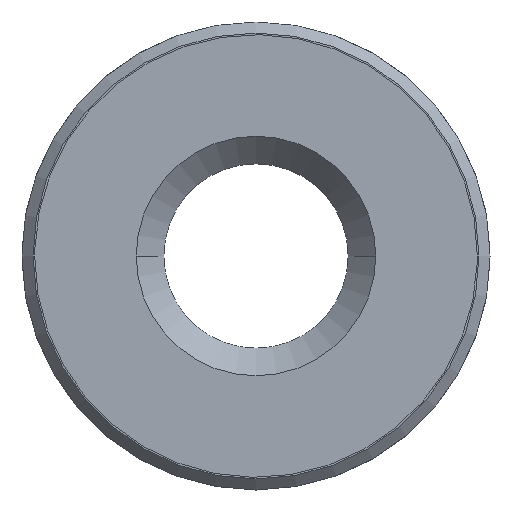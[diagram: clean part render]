
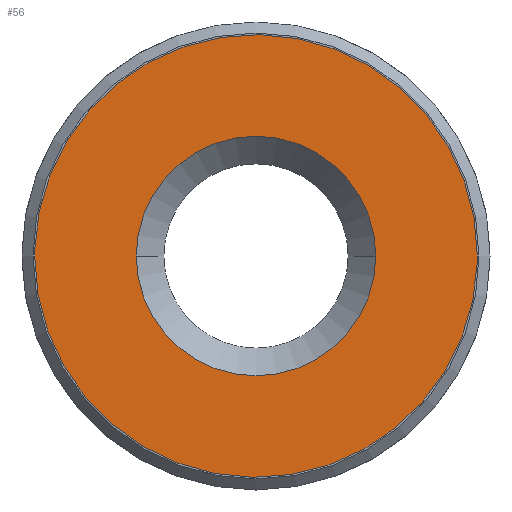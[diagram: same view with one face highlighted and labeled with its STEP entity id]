
A CAD part, front view. The second image highlights one B-rep face of the part: STEP entity #56.
In plain terms, the highlighted planar face has unit normal (0, -1, 0).
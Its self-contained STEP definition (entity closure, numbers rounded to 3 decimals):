
#51=FACE_BOUND('',#125,.F.);
#56=ADVANCED_FACE('',(#51,#90),#330,.T.);
#90=FACE_OUTER_BOUND('',#126,.F.);
#125=EDGE_LOOP('',(#168,#169));
#126=EDGE_LOOP('',(#170,#171,#172,#173));
#168=ORIENTED_EDGE('',*,*,#552,.T.);
#169=ORIENTED_EDGE('',*,*,#550,.T.);
#170=ORIENTED_EDGE('',*,*,#545,.F.);
#171=ORIENTED_EDGE('',*,*,#547,.F.);
#172=ORIENTED_EDGE('',*,*,#546,.F.);
#173=ORIENTED_EDGE('',*,*,#548,.F.);
#330=PLANE('',#793);
#545=EDGE_CURVE('',#719,#718,#629,.T.);
#546=EDGE_CURVE('',#717,#716,#630,.T.);
#547=EDGE_CURVE('',#716,#719,#631,.T.);
#548=EDGE_CURVE('',#718,#717,#632,.T.);
#550=EDGE_CURVE('',#713,#712,#634,.T.);
#552=EDGE_CURVE('',#712,#713,#636,.T.);
#629=CIRCLE('',#752,12.013);
#630=CIRCLE('',#753,12.013);
#631=CIRCLE('',#754,12.013);
#632=CIRCLE('',#755,12.013);
#634=CIRCLE('',#757,6.5);
#636=CIRCLE('',#759,6.5);
#712=VERTEX_POINT('',#1069);
#713=VERTEX_POINT('',#1070);
#716=VERTEX_POINT('',#1073);
#717=VERTEX_POINT('',#1074);
#718=VERTEX_POINT('',#1075);
#719=VERTEX_POINT('',#1076);
#752=AXIS2_PLACEMENT_3D('',#1080,#833,#834);
#753=AXIS2_PLACEMENT_3D('',#1081,#835,#836);
#754=AXIS2_PLACEMENT_3D('',#1082,#837,#838);
#755=AXIS2_PLACEMENT_3D('',#1083,#839,#840);
#757=AXIS2_PLACEMENT_3D('',#1085,#843,#844);
#759=AXIS2_PLACEMENT_3D('',#1087,#847,#848);
#793=AXIS2_PLACEMENT_3D('',#1185,#955,#956);
#833=DIRECTION('',(0.,-1.,0.));
#834=DIRECTION('',(1.,0.,-0.029));
#835=DIRECTION('',(0.,-1.,0.));
#836=DIRECTION('',(-1.,0.,0.029));
#837=DIRECTION('',(0.,-1.,0.));
#838=DIRECTION('',(-1.,0.,0.));
#839=DIRECTION('',(0.,-1.,0.));
#840=DIRECTION('',(1.,0.,0.));
#843=DIRECTION('',(0.,-1.,0.));
#844=DIRECTION('',(1.,0.,0.));
#847=DIRECTION('',(0.,-1.,0.));
#848=DIRECTION('',(-1.,0.,0.));
#955=DIRECTION('',(0.,-1.,0.));
#956=DIRECTION('',(0.,0.,1.));
#1069=CARTESIAN_POINT('',(-150.75,500.5,-340.75));
#1070=CARTESIAN_POINT('',(-137.75,500.5,-340.75));
#1073=CARTESIAN_POINT('',(-156.263,500.5,-340.75));
#1074=CARTESIAN_POINT('',(-156.258,500.5,-340.4));
#1075=CARTESIAN_POINT('',(-132.237,500.5,-340.75));
#1076=CARTESIAN_POINT('',(-132.242,500.5,-341.1));
#1080=CARTESIAN_POINT('',(-144.25,500.5,-340.75));
#1081=CARTESIAN_POINT('',(-144.25,500.5,-340.75));
#1082=CARTESIAN_POINT('',(-144.25,500.5,-340.75));
#1083=CARTESIAN_POINT('',(-144.25,500.5,-340.75));
#1085=CARTESIAN_POINT('',(-144.25,500.5,-340.75));
#1087=CARTESIAN_POINT('',(-144.25,500.5,-340.75));
#1185=CARTESIAN_POINT('',(-129.25,500.5,-355.75));
